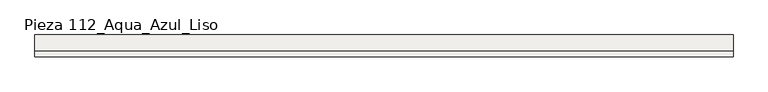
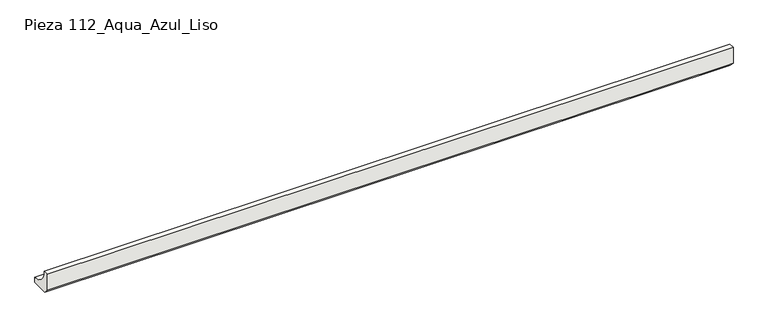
"""IFC4 building model written with IfcOpenShell, lengths in millimetres: slab geometry, ROSA GRES_112 : Pieza 112_Aqua_Azul_Liso."""

from ifc_helpers import new_model, si_unit, point, frame, frame_2d, origin, place, context, project, spatial, polyline, circle_curve, trimmed, segment, composite_curve, outline, extrude, source, transform, mapped, element, save


def pieza_112_aqua_azul_liso_63a14f7b(model_context):
    return source(origin(), model_context, "Body", "SweptSolid", [
        extrude(outline(composite_curve([segment(polyline([(0.0, 8.7114978), (0.0, 40.0), (9.9734114, 40.0)]), True, "CONTINUOUS"), segment(trimmed(circle_curve(frame_2d((39.9955547, 39.9955547)), 30.0221435), [point((9.9734114, 40.0))], [point((40.0, 9.9734114))], True, "CARTESIAN"), True, "CONTINUOUS"), segment(polyline([(40.0, 9.9734114), (40.0, 0.0), (8.7114978, 0.0), (0.0, 8.7114978)]), True, "CONTINUOUS")], self_intersect=False)), frame((0.0, 0.0, 0.0), z_axis=(1.0, 0.0, 0.0), x_axis=(0.0, 1.0, 0.0)), (0.0, 0.0, 1.0), 1270.0),
    ])


if __name__ == "__main__":
    model = new_model("IFC4")
    model_context = context("Model", 3, world=origin())
    ifc_project = project(units=[si_unit("LENGTHUNIT", "METRE", prefix="MILLI")], contexts=[model_context])
    site = spatial("IfcSite", under=ifc_project)
    building = spatial("IfcBuilding", under=site)
    placement = place(None, origin())
    pieza_112_aqua_azul_liso_shape = pieza_112_aqua_azul_liso_63a14f7b(model_context)
    element("IfcSlab", 1, ObjectType="ROSA GRES_112 : Pieza 112_Aqua_Azul_Liso", at=placement, inside=building, context=model_context, shape_type="MappedRepresentation", body=[
        mapped(pieza_112_aqua_azul_liso_shape, transform((0.0, 0.0, 0.0), x_axis=(1.0, 0.0, 0.0), y_axis=(0.0, 1.0, 0.0), z_axis=(0.0, 0.0, 1.0))),
    ])
    save(model, "model.ifc")
